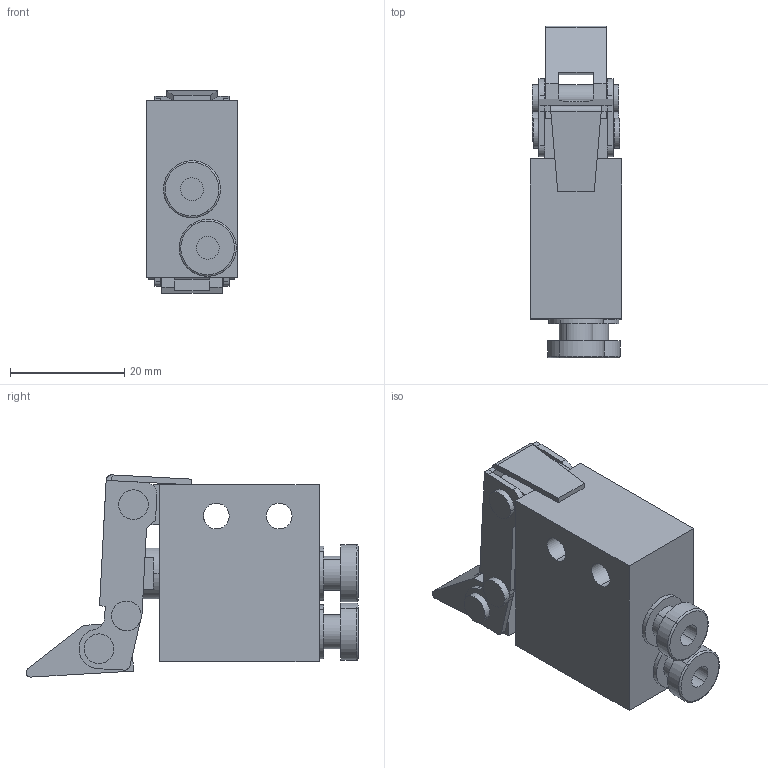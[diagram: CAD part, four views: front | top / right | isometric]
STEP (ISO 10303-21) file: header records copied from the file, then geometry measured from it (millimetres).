
FILE_DESCRIPTION(('STEP AP214'),'1');
FILE_NAME('malru4.stp','2021-07-05T10:08:23',('TraceParts'),('TraceParts S.A.'),'Spatial InterOp 3D',' ',' ');
FILE_SCHEMA(('AUTOMOTIVE_DESIGN { 1 0 10303 214 1 1 1 1 }'));
Length unit declared in the file: millimetre
Products named in the file (1): malru4_1
Bounding box: 16 x 58.1 x 35.38 mm (x, y, z)
Volume: 16421 mm3; surface area: 9006.5 mm2
Topology: 5 solids, 5 shells, 186 faces, 451 edges, 288 vertices
Faces by surface type: plane 85, cylinder 75, cone 10, torus 8, sphere 6, bspline 2
Entity records: 5672 total; most frequent: CARTESIAN_POINT 1134, DIRECTION 995, ORIENTED_EDGE 890, EDGE_CURVE 445, AXIS2_PLACEMENT_3D 377, VERTEX_POINT 288, LINE 241, VECTOR 241
